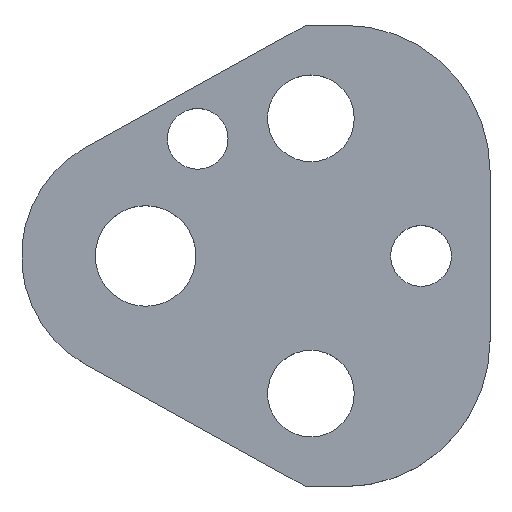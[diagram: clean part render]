
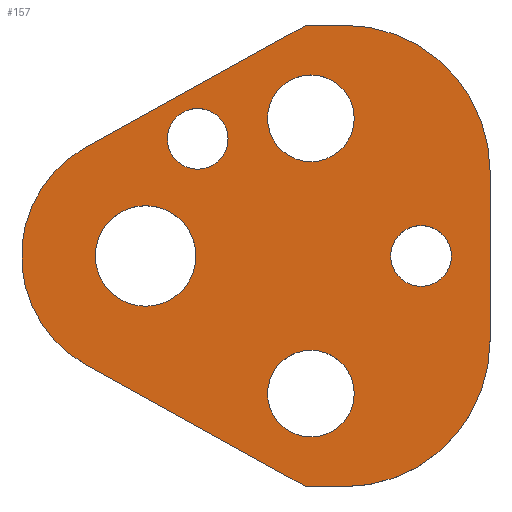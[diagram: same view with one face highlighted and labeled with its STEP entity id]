
A CAD part, top view. The second image highlights one B-rep face of the part: STEP entity #157.
In plain terms, the highlighted planar face has unit normal (0, 0, 1).
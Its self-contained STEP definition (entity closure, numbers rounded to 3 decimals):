
#103=FACE_BOUND('',#207,.T.);
#104=FACE_BOUND('',#208,.T.);
#105=FACE_BOUND('',#209,.T.);
#106=FACE_BOUND('',#210,.T.);
#107=FACE_BOUND('',#211,.T.);
#108=FACE_BOUND('',#212,.T.);
#122=CIRCLE('',#480,16.8);
#124=CIRCLE('',#484,16.8);
#127=CIRCLE('',#490,14.3);
#138=CIRCLE('',#503,5.);
#139=CIRCLE('',#504,5.);
#140=CIRCLE('',#505,3.5);
#141=CIRCLE('',#506,3.5);
#142=CIRCLE('',#507,5.);
#143=CIRCLE('',#508,5.);
#144=CIRCLE('',#509,3.5);
#145=CIRCLE('',#510,3.5);
#146=CIRCLE('',#511,5.8);
#147=CIRCLE('',#512,5.8);
#157=ADVANCED_FACE('',(#103,#104,#105,#106,#107,#108),#174,.T.);
#174=PLANE('',#513);
#207=EDGE_LOOP('',(#273,#274,#275,#276,#277,#278,#279,#280));
#208=EDGE_LOOP('',(#281,#282));
#209=EDGE_LOOP('',(#283,#284));
#210=EDGE_LOOP('',(#285,#286));
#211=EDGE_LOOP('',(#287,#288));
#212=EDGE_LOOP('',(#289,#290));
#273=ORIENTED_EDGE('',*,*,#368,.T.);
#274=ORIENTED_EDGE('',*,*,#372,.T.);
#275=ORIENTED_EDGE('',*,*,#375,.T.);
#276=ORIENTED_EDGE('',*,*,#378,.T.);
#277=ORIENTED_EDGE('',*,*,#381,.T.);
#278=ORIENTED_EDGE('',*,*,#384,.T.);
#279=ORIENTED_EDGE('',*,*,#387,.T.);
#280=ORIENTED_EDGE('',*,*,#390,.T.);
#281=ORIENTED_EDGE('',*,*,#401,.T.);
#282=ORIENTED_EDGE('',*,*,#402,.T.);
#283=ORIENTED_EDGE('',*,*,#403,.T.);
#284=ORIENTED_EDGE('',*,*,#404,.T.);
#285=ORIENTED_EDGE('',*,*,#405,.T.);
#286=ORIENTED_EDGE('',*,*,#406,.T.);
#287=ORIENTED_EDGE('',*,*,#407,.T.);
#288=ORIENTED_EDGE('',*,*,#408,.T.);
#289=ORIENTED_EDGE('',*,*,#409,.T.);
#290=ORIENTED_EDGE('',*,*,#410,.T.);
#332=VERTEX_POINT('',#649);
#333=VERTEX_POINT('',#651);
#336=VERTEX_POINT('',#658);
#338=VERTEX_POINT('',#664);
#340=VERTEX_POINT('',#670);
#342=VERTEX_POINT('',#676);
#344=VERTEX_POINT('',#682);
#346=VERTEX_POINT('',#688);
#357=VERTEX_POINT('',#717);
#358=VERTEX_POINT('',#718);
#359=VERTEX_POINT('',#721);
#360=VERTEX_POINT('',#722);
#361=VERTEX_POINT('',#725);
#362=VERTEX_POINT('',#726);
#363=VERTEX_POINT('',#729);
#364=VERTEX_POINT('',#730);
#365=VERTEX_POINT('',#733);
#366=VERTEX_POINT('',#734);
#368=EDGE_CURVE('',#333,#332,#422,.T.);
#372=EDGE_CURVE('',#332,#336,#426,.T.);
#375=EDGE_CURVE('',#336,#338,#122,.T.);
#378=EDGE_CURVE('',#338,#340,#430,.T.);
#381=EDGE_CURVE('',#340,#342,#124,.T.);
#384=EDGE_CURVE('',#342,#344,#434,.T.);
#387=EDGE_CURVE('',#344,#346,#437,.T.);
#390=EDGE_CURVE('',#346,#333,#127,.T.);
#401=EDGE_CURVE('',#357,#358,#138,.T.);
#402=EDGE_CURVE('',#358,#357,#139,.T.);
#403=EDGE_CURVE('',#359,#360,#140,.T.);
#404=EDGE_CURVE('',#360,#359,#141,.T.);
#405=EDGE_CURVE('',#361,#362,#142,.T.);
#406=EDGE_CURVE('',#362,#361,#143,.T.);
#407=EDGE_CURVE('',#363,#364,#144,.T.);
#408=EDGE_CURVE('',#364,#363,#145,.T.);
#409=EDGE_CURVE('',#365,#366,#146,.T.);
#410=EDGE_CURVE('',#366,#365,#147,.T.);
#422=LINE('',#650,#450);
#426=LINE('',#659,#454);
#430=LINE('',#671,#458);
#434=LINE('',#683,#462);
#437=LINE('',#689,#465);
#450=VECTOR('',#527,1.);
#454=VECTOR('',#533,1.);
#458=VECTOR('',#545,1.);
#462=VECTOR('',#557,1.);
#465=VECTOR('',#562,1.);
#480=AXIS2_PLACEMENT_3D('',#665,#538,#539);
#484=AXIS2_PLACEMENT_3D('',#677,#550,#551);
#490=AXIS2_PLACEMENT_3D('',#693,#568,#569);
#503=AXIS2_PLACEMENT_3D('',#716,#594,#595);
#504=AXIS2_PLACEMENT_3D('',#719,#596,#597);
#505=AXIS2_PLACEMENT_3D('',#720,#598,#599);
#506=AXIS2_PLACEMENT_3D('',#723,#600,#601);
#507=AXIS2_PLACEMENT_3D('',#724,#602,#603);
#508=AXIS2_PLACEMENT_3D('',#727,#604,#605);
#509=AXIS2_PLACEMENT_3D('',#728,#606,#607);
#510=AXIS2_PLACEMENT_3D('',#731,#608,#609);
#511=AXIS2_PLACEMENT_3D('',#732,#610,#611);
#512=AXIS2_PLACEMENT_3D('',#735,#612,#613);
#513=AXIS2_PLACEMENT_3D('',#736,#614,#615);
#527=DIRECTION('',(0.875,-0.485,0.));
#533=DIRECTION('',(1.,0.,0.));
#538=DIRECTION('',(0.,0.,1.));
#539=DIRECTION('',(-0.707,0.707,0.));
#545=DIRECTION('',(0.,1.,0.));
#550=DIRECTION('',(0.,0.,1.));
#551=DIRECTION('',(-0.707,-0.707,0.));
#557=DIRECTION('',(-1.,0.,0.));
#562=DIRECTION('',(-0.875,-0.485,0.));
#568=DIRECTION('',(0.,0.,1.));
#569=DIRECTION('',(1.,0.,0.));
#594=DIRECTION('',(0.,0.,-1.));
#595=DIRECTION('',(-1.,0.,0.));
#596=DIRECTION('',(0.,0.,-1.));
#597=DIRECTION('',(1.,0.,0.));
#598=DIRECTION('',(0.,0.,-1.));
#599=DIRECTION('',(-1.,0.,0.));
#600=DIRECTION('',(0.,0.,-1.));
#601=DIRECTION('',(1.,0.,0.));
#602=DIRECTION('',(0.,0.,-1.));
#603=DIRECTION('',(-1.,0.,0.));
#604=DIRECTION('',(0.,0.,-1.));
#605=DIRECTION('',(1.,0.,0.));
#606=DIRECTION('',(0.,0.,-1.));
#607=DIRECTION('',(-1.,0.,0.));
#608=DIRECTION('',(0.,0.,-1.));
#609=DIRECTION('',(1.,0.,0.));
#610=DIRECTION('',(0.,0.,-1.));
#611=DIRECTION('',(-1.,0.,0.));
#612=DIRECTION('',(0.,0.,-1.));
#613=DIRECTION('',(1.,0.,0.));
#614=DIRECTION('',(0.,0.,1.));
#615=DIRECTION('',(-0.875,0.485,0.));
#649=CARTESIAN_POINT('',(18.492,-26.6,5.));
#650=CARTESIAN_POINT('',(18.492,-26.6,5.));
#651=CARTESIAN_POINT('',(-6.933,-12.507,5.));
#658=CARTESIAN_POINT('',(22.9,-26.6,5.));
#659=CARTESIAN_POINT('',(18.492,-26.6,5.));
#664=CARTESIAN_POINT('',(39.7,-9.8,5.));
#665=CARTESIAN_POINT('',(22.9,-9.8,5.));
#670=CARTESIAN_POINT('',(39.7,9.8,5.));
#671=CARTESIAN_POINT('',(39.7,9.8,5.));
#676=CARTESIAN_POINT('',(22.9,26.6,5.));
#677=CARTESIAN_POINT('',(22.9,9.8,5.));
#682=CARTESIAN_POINT('',(18.492,26.6,5.));
#683=CARTESIAN_POINT('',(18.492,26.6,5.));
#688=CARTESIAN_POINT('',(-6.933,12.507,5.));
#689=CARTESIAN_POINT('',(18.492,26.6,5.));
#693=CARTESIAN_POINT('',(0.,0.,5.));
#716=CARTESIAN_POINT('',(19.05,-15.87,5.));
#717=CARTESIAN_POINT('',(19.05,-10.87,5.));
#718=CARTESIAN_POINT('',(19.05,-20.87,5.));
#719=CARTESIAN_POINT('',(19.05,-15.87,5.));
#720=CARTESIAN_POINT('',(31.75,0.,5.));
#721=CARTESIAN_POINT('',(31.75,3.5,5.));
#722=CARTESIAN_POINT('',(31.75,-3.5,5.));
#723=CARTESIAN_POINT('',(31.75,0.,5.));
#724=CARTESIAN_POINT('',(19.05,15.87,5.));
#725=CARTESIAN_POINT('',(19.05,20.87,5.));
#726=CARTESIAN_POINT('',(19.05,10.87,5.));
#727=CARTESIAN_POINT('',(19.05,15.87,5.));
#728=CARTESIAN_POINT('',(6.,13.5,5.));
#729=CARTESIAN_POINT('',(6.,17.,5.));
#730=CARTESIAN_POINT('',(6.,10.,5.));
#731=CARTESIAN_POINT('',(6.,13.5,5.));
#732=CARTESIAN_POINT('',(0.,0.,5.));
#733=CARTESIAN_POINT('',(0.,5.8,5.));
#734=CARTESIAN_POINT('',(0.,-5.8,5.));
#735=CARTESIAN_POINT('',(0.,0.,5.));
#736=CARTESIAN_POINT('',(-6.933,-12.507,5.));
